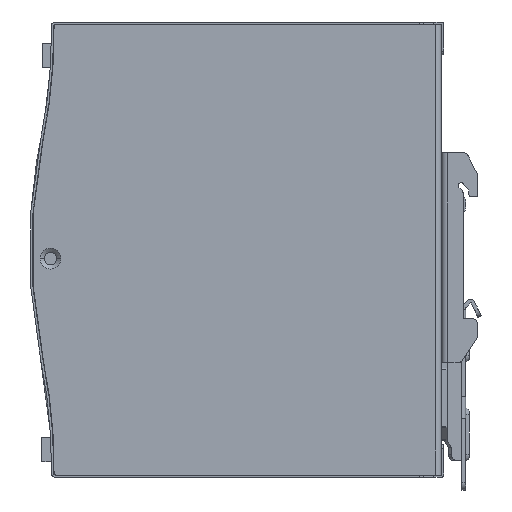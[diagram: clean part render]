
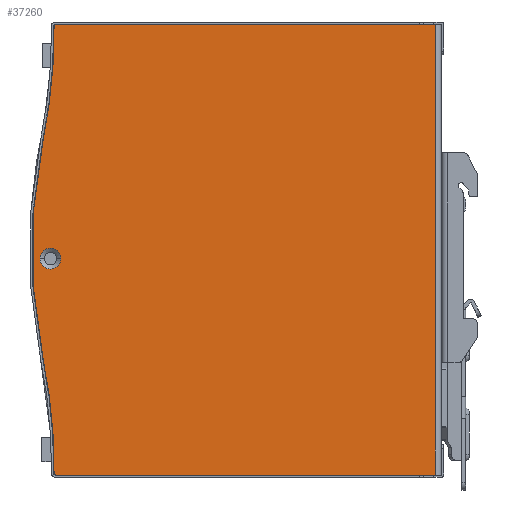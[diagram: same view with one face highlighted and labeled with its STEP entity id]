
A CAD part, front view. The second image highlights one B-rep face of the part: STEP entity #37260.
In plain terms, the highlighted planar face has unit normal (0, -1, 0).
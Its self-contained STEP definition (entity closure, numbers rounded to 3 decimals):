
#30630=CARTESIAN_POINT('',(95.953,13.236,-50.));
#30640=DIRECTION('',(-1.,0.,0.));
#30650=VECTOR('',#30640,1.);
#30660=LINE('',#30630,#30650);
#30670=CARTESIAN_POINT('',(95.953,13.236,-50.));
#30680=VERTEX_POINT('',#30670);
#30690=CARTESIAN_POINT('',(-8.439,13.236,-50.));
#30700=VERTEX_POINT('',#30690);
#30710=EDGE_CURVE('',#30680,#30700,#30660,.T.);
#31480=CARTESIAN_POINT('',(-8.939,13.236,-49.501
));
#31490=CARTESIAN_POINT('',(-8.94,13.236,-49.57
));
#31500=CARTESIAN_POINT('',(-8.912,13.236,-49.697
));
#31510=CARTESIAN_POINT('',(-8.802,13.236,-49.863
));
#31520=CARTESIAN_POINT('',(-8.636,13.236,-49.973
));
#31530=CARTESIAN_POINT('',(-8.509,13.236,-50.));
#31540=CARTESIAN_POINT('',(-8.439,13.236,-50.));
#31550=B_SPLINE_CURVE_WITH_KNOTS('',3,(#31480,#31490,#31500,#31510,
#31520,#31530,#31540),.UNSPECIFIED.,.F.,.F.,(4,1,1,1,4),(0.,0.25,0.5,
0.75,1.),.UNSPECIFIED.);
#31560=CARTESIAN_POINT('',(-8.939,13.236,-49.498
));
#31570=VERTEX_POINT('',#31560);
#31580=EDGE_CURVE('',#31570,#30700,#31550,.T.);
#32000=CARTESIAN_POINT('',(-11.964,13.236,-18.01
));
#32010=VERTEX_POINT('',#32000);
#32040=CARTESIAN_POINT('',(-158.932,13.236,-48.019
));
#32050=DIRECTION('',(-0.,1.,0.));
#32060=DIRECTION('',(0.98,0.,0.2));
#32070=AXIS2_PLACEMENT_3D('',#32040,#32050,#32060);
#32080=CIRCLE('',#32070,150.);
#32090=EDGE_CURVE('',#32010,#31570,#32080,.T.);
#36280=CARTESIAN_POINT('',(95.953,13.236,74.));
#36290=VERTEX_POINT('',#36280);
#36320=CARTESIAN_POINT('',(95.953,13.236,74.));
#36330=DIRECTION('',(-1.,0.,0.));
#36340=VECTOR('',#36330,1.);
#36350=LINE('',#36320,#36340);
#36360=CARTESIAN_POINT('',(-8.439,13.236,74.));
#36370=VERTEX_POINT('',#36360);
#36380=EDGE_CURVE('',#36290,#36370,#36350,.T.);
#36540=CARTESIAN_POINT('',(-8.439,13.236,74.));
#36550=CARTESIAN_POINT('',(-8.509,13.236,74.));
#36560=CARTESIAN_POINT('',(-8.636,13.236,73.973))
;
#36570=CARTESIAN_POINT('',(-8.802,13.236,73.863)
);
#36580=CARTESIAN_POINT('',(-8.911,13.236,73.698)
);
#36590=CARTESIAN_POINT('',(-8.94,13.236,73.57)
);
#36600=CARTESIAN_POINT('',(-8.939,13.236,73.501)
);
#36610=B_SPLINE_CURVE_WITH_KNOTS('',3,(#36540,#36550,#36560,#36570,
#36580,#36590,#36600),.UNSPECIFIED.,.F.,.F.,(4,1,1,1,4),(0.,0.25,0.5,
0.75,1.),.UNSPECIFIED.);
#36620=CARTESIAN_POINT('',(-8.939,13.236,73.495))
;
#36630=VERTEX_POINT('',#36620);
#36640=EDGE_CURVE('',#36370,#36630,#36610,.T.);
#36770=CARTESIAN_POINT('',(-13.667,13.236,0.));
#36780=DIRECTION('',(0.,-1.,0.));
#36790=DIRECTION('',(0.,0.,-1.));
#36800=AXIS2_PLACEMENT_3D('',#36770,#36780,#36790);
#36810=PLANE('',#36800);
#36820=ORIENTED_EDGE('',*,*,#31580,.T.);
#36830=ORIENTED_EDGE('',*,*,#32090,.T.);
#36840=CARTESIAN_POINT('',(135.003,13.236,12.))
;
#36850=DIRECTION('',(0.,-1.,0.));
#36860=DIRECTION('',(-0.98,0.,0.2));
#36870=AXIS2_PLACEMENT_3D('',#36840,#36850,#36860);
#36880=CIRCLE('',#36870,150.);
#36890=CARTESIAN_POINT('',(-11.964,13.236,42.01)
);
#36900=VERTEX_POINT('',#36890);
#36910=EDGE_CURVE('',#36900,#32010,#36880,.T.);
#36920=ORIENTED_EDGE('',*,*,#36910,.T.);
#36930=CARTESIAN_POINT('',(-158.932,13.236,72.019)
);
#36940=DIRECTION('',(-0.,1.,0.));
#36950=DIRECTION('',(1.,0.,0.01));
#36960=AXIS2_PLACEMENT_3D('',#36930,#36940,#36950);
#36970=CIRCLE('',#36960,150.);
#36980=EDGE_CURVE('',#36630,#36900,#36970,.T.);
#36990=ORIENTED_EDGE('',*,*,#36980,.T.);
#37000=ORIENTED_EDGE('',*,*,#36640,.T.);
#37010=ORIENTED_EDGE('',*,*,#36380,.T.);
#37020=CARTESIAN_POINT('',(95.953,13.236,74.));
#37030=DIRECTION('',(0.,0.,-1.));
#37040=VECTOR('',#37030,1.);
#37050=LINE('',#37020,#37040);
#37060=EDGE_CURVE('',#36290,#30680,#37050,.T.);
#37070=ORIENTED_EDGE('',*,*,#37060,.F.);
#37080=ORIENTED_EDGE('',*,*,#30710,.F.);
#37090=EDGE_LOOP('',(#37080,#37070,#37010,#37000,#36990,#36920,#36830,
#36820));
#37100=FACE_OUTER_BOUND('',#37090,.T.);
#37110=CARTESIAN_POINT('',(-9.947,13.236,9.5)
);
#37120=DIRECTION('',(0.,1.,0.));
#37130=DIRECTION('',(-1.,0.,0.));
#37140=AXIS2_PLACEMENT_3D('',#37110,#37120,#37130);
#37150=CIRCLE('',#37140,2.85);
#37160=CARTESIAN_POINT('',(-7.097,13.236,9.5)
);
#37170=VERTEX_POINT('',#37160);
#37180=CARTESIAN_POINT('',(-12.797,13.236,9.5)
);
#37190=VERTEX_POINT('',#37180);
#37200=EDGE_CURVE('',#37170,#37190,#37150,.T.);
#37210=ORIENTED_EDGE('',*,*,#37200,.T.);
#37220=EDGE_CURVE('',#37190,#37170,#37150,.T.);
#37230=ORIENTED_EDGE('',*,*,#37220,.T.);
#37240=EDGE_LOOP('',(#37230,#37210));
#37250=FACE_BOUND('',#37240,.T.);
#37260=ADVANCED_FACE('',(#37100,#37250),#36810,.T.);
